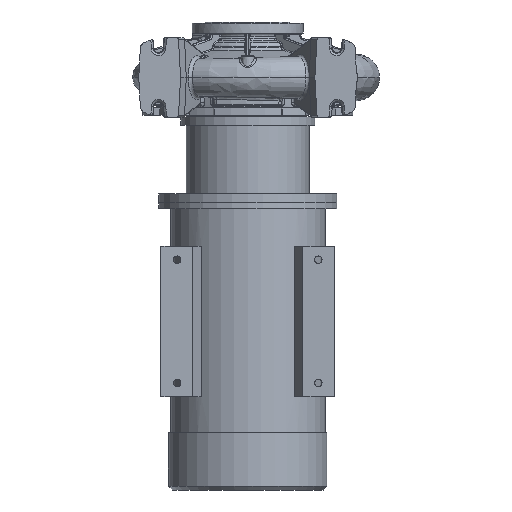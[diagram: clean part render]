
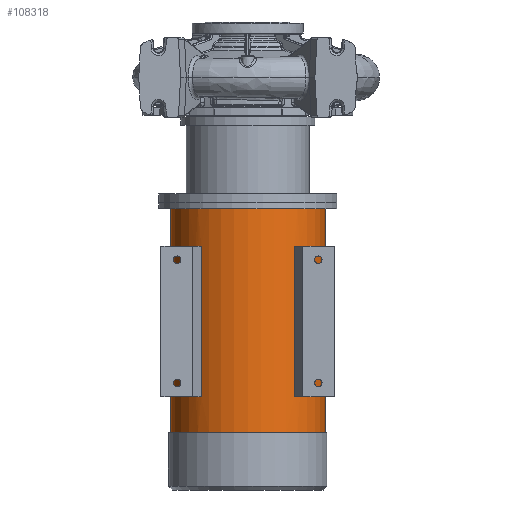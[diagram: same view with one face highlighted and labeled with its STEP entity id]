
A CAD part, front view. The second image highlights one B-rep face of the part: STEP entity #108318.
In plain terms, the highlighted cylindrical face has radius 195 mm (diameter 390 mm), a partial arc.
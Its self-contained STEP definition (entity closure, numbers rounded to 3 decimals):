
#553 = CARTESIAN_POINT ( 'NONE',  ( 117.445, -155.665, -1040.8 ) ) ;
#2296 = EDGE_LOOP ( 'NONE', ( #104818, #56268, #51051, #9727 ) ) ;
#3020 = VECTOR ( 'NONE', #108798, 1000. ) ;
#4124 = CARTESIAN_POINT ( 'NONE',  ( 131.492, -143.996, -805.3 ) ) ;
#4322 = EDGE_LOOP ( 'NONE', ( #91780, #60033, #30339, #5461 ) ) ;
#5461 = ORIENTED_EDGE ( 'NONE', *, *, #22422, .F. ) ;
#5805 = AXIS2_PLACEMENT_3D ( 'NONE', #11121, #29700, #93659 ) ;
#5840 = VERTEX_POINT ( 'NONE', #43347 ) ;
#5873 = EDGE_CURVE ( 'NONE', #62763, #36496, #75799, .T. ) ;
#8458 = FACE_OUTER_BOUND ( 'NONE', #4322, .T. ) ;
#9170 = VECTOR ( 'NONE', #65760, 1000. ) ;
#9727 = ORIENTED_EDGE ( 'NONE', *, *, #28275, .F. ) ;
#10656 = LINE ( 'NONE', #47320, #50094 ) ;
#11121 = CARTESIAN_POINT ( 'NONE',  ( 0., 0., -1040.8 ) ) ;
#11265 = VERTEX_POINT ( 'NONE', #36207 ) ;
#13224 = ORIENTED_EDGE ( 'NONE', *, *, #68380, .T. ) ;
#15901 = DIRECTION ( 'NONE',  ( -1., 0., 0. ) ) ;
#16651 = EDGE_CURVE ( 'NONE', #108466, #55109, #20455, .T. ) ;
#17890 = EDGE_CURVE ( 'NONE', #25414, #11265, #76831, .T. ) ;
#18172 = LINE ( 'NONE', #46804, #28057 ) ;
#19170 = CARTESIAN_POINT ( 'NONE',  ( -195., 0., -1040.8 ) ) ;
#20455 = LINE ( 'NONE', #112738, #65676 ) ;
#20478 = CARTESIAN_POINT ( 'NONE',  ( 117.445, -155.665, -805.3 ) ) ;
#20594 = VERTEX_POINT ( 'NONE', #21587 ) ;
#21587 = CARTESIAN_POINT ( 'NONE',  ( -131.492, -143.996, -805.3 ) ) ;
#22422 = EDGE_CURVE ( 'NONE', #39382, #5840, #71618, .T. ) ;
#24631 = DIRECTION ( 'NONE',  ( 0., 0., -1. ) ) ;
#25414 = VERTEX_POINT ( 'NONE', #82440 ) ;
#25963 = CARTESIAN_POINT ( 'NONE',  ( 0., 0., -896.8 ) ) ;
#28057 = VECTOR ( 'NONE', #65763, 1000. ) ;
#28275 = EDGE_CURVE ( 'NONE', #55109, #103536, #99624, .T. ) ;
#28577 = LINE ( 'NONE', #553, #3020 ) ;
#29700 = DIRECTION ( 'NONE',  ( 0., 0., -1. ) ) ;
#30339 = ORIENTED_EDGE ( 'NONE', *, *, #87183, .T. ) ;
#31584 = EDGE_CURVE ( 'NONE', #56092, #36496, #64042, .T. ) ;
#33366 = CARTESIAN_POINT ( 'NONE',  ( 0., 0., -425.3 ) ) ;
#35618 = CARTESIAN_POINT ( 'NONE',  ( -117.445, -155.665, -425.3 ) ) ;
#36089 = LINE ( 'NONE', #19170, #9170 ) ;
#36207 = CARTESIAN_POINT ( 'NONE',  ( -195., 0., -330.8 ) ) ;
#36435 = EDGE_CURVE ( 'NONE', #108466, #20594, #55801, .T. ) ;
#36496 = VERTEX_POINT ( 'NONE', #4124 ) ;
#39382 = VERTEX_POINT ( 'NONE', #77443 ) ;
#40719 = AXIS2_PLACEMENT_3D ( 'NONE', #33366, #42417, #59458 ) ;
#42417 = DIRECTION ( 'NONE',  ( 0., 0., -1. ) ) ;
#43347 = CARTESIAN_POINT ( 'NONE',  ( -195., 0., -896.8 ) ) ;
#43626 = ORIENTED_EDGE ( 'NONE', *, *, #31584, .T. ) ;
#44042 = CARTESIAN_POINT ( 'NONE',  ( 131.492, -143.996, -425.3 ) ) ;
#44509 = EDGE_CURVE ( 'NONE', #102853, #56092, #63631, .T. ) ;
#45102 = CARTESIAN_POINT ( 'NONE',  ( -131.492, -143.996, -425.3 ) ) ;
#46804 = CARTESIAN_POINT ( 'NONE',  ( -131.492, -143.996, -1040.8 ) ) ;
#47320 = CARTESIAN_POINT ( 'NONE',  ( 195., 0., -1040.8 ) ) ;
#50094 = VECTOR ( 'NONE', #101848, 1000. ) ;
#50328 = EDGE_LOOP ( 'NONE', ( #89362, #13224, #101267, #43626 ) ) ;
#51051 = ORIENTED_EDGE ( 'NONE', *, *, #71238, .F. ) ;
#51659 = DIRECTION ( 'NONE',  ( 0., 0., -1. ) ) ;
#52055 = DIRECTION ( 'NONE',  ( -1., 0., 0. ) ) ;
#55109 = VERTEX_POINT ( 'NONE', #35618 ) ;
#55583 = EDGE_CURVE ( 'NONE', #25414, #39382, #10656, .T. ) ;
#55801 = CIRCLE ( 'NONE', #98627, 195. ) ;
#56092 = VERTEX_POINT ( 'NONE', #44042 ) ;
#56268 = ORIENTED_EDGE ( 'NONE', *, *, #36435, .T. ) ;
#57731 = AXIS2_PLACEMENT_3D ( 'NONE', #80835, #89931, #52055 ) ;
#58035 = DIRECTION ( 'NONE',  ( 0., 0., -1. ) ) ;
#58105 = CYLINDRICAL_SURFACE ( 'NONE', #5805, 195. ) ;
#59458 = DIRECTION ( 'NONE',  ( 1., 0., 0. ) ) ;
#60033 = ORIENTED_EDGE ( 'NONE', *, *, #17890, .T. ) ;
#60353 = DIRECTION ( 'NONE',  ( -1., 0., 0. ) ) ;
#60553 = CARTESIAN_POINT ( 'NONE',  ( 0., 0., -330.8 ) ) ;
#62763 = VERTEX_POINT ( 'NONE', #20478 ) ;
#63631 = CIRCLE ( 'NONE', #104405, 195. ) ;
#64042 = LINE ( 'NONE', #66700, #85213 ) ;
#65676 = VECTOR ( 'NONE', #103688, 1000. ) ;
#65760 = DIRECTION ( 'NONE',  ( 0., 0., -1. ) ) ;
#65763 = DIRECTION ( 'NONE',  ( 0., 0., -1. ) ) ;
#65811 = CARTESIAN_POINT ( 'NONE',  ( 0., 0., -805.3 ) ) ;
#66700 = CARTESIAN_POINT ( 'NONE',  ( 131.492, -143.996, -1040.8 ) ) ;
#68380 = EDGE_CURVE ( 'NONE', #62763, #102853, #28577, .T. ) ;
#71238 = EDGE_CURVE ( 'NONE', #103536, #20594, #18172, .T. ) ;
#71618 = CIRCLE ( 'NONE', #78027, 195. ) ;
#73525 = DIRECTION ( 'NONE',  ( -1., 0., 0. ) ) ;
#74072 = AXIS2_PLACEMENT_3D ( 'NONE', #60553, #24631, #15901 ) ;
#75799 = CIRCLE ( 'NONE', #57731, 195. ) ;
#76831 = CIRCLE ( 'NONE', #74072, 195. ) ;
#77443 = CARTESIAN_POINT ( 'NONE',  ( 195., 0., -896.8 ) ) ;
#78027 = AXIS2_PLACEMENT_3D ( 'NONE', #25963, #51659, #60353 ) ;
#80835 = CARTESIAN_POINT ( 'NONE',  ( 0., 0., -805.3 ) ) ;
#81957 = CARTESIAN_POINT ( 'NONE',  ( 117.445, -155.665, -425.3 ) ) ;
#82440 = CARTESIAN_POINT ( 'NONE',  ( 195., 0., -330.8 ) ) ;
#85213 = VECTOR ( 'NONE', #58035, 1000. ) ;
#87183 = EDGE_CURVE ( 'NONE', #11265, #5840, #36089, .T. ) ;
#89362 = ORIENTED_EDGE ( 'NONE', *, *, #5873, .F. ) ;
#89931 = DIRECTION ( 'NONE',  ( 0., 0., 1. ) ) ;
#91780 = ORIENTED_EDGE ( 'NONE', *, *, #55583, .F. ) ;
#92106 = DIRECTION ( 'NONE',  ( 0., 0., 1. ) ) ;
#92656 = DIRECTION ( 'NONE',  ( 0., 0., -1. ) ) ;
#93659 = DIRECTION ( 'NONE',  ( -1., 0., 0. ) ) ;
#98469 = CARTESIAN_POINT ( 'NONE',  ( 0., 0., -425.3 ) ) ;
#98627 = AXIS2_PLACEMENT_3D ( 'NONE', #65811, #92656, #110862 ) ;
#99624 = CIRCLE ( 'NONE', #40719, 195. ) ;
#101267 = ORIENTED_EDGE ( 'NONE', *, *, #44509, .T. ) ;
#101832 = FACE_BOUND ( 'NONE', #50328, .T. ) ;
#101848 = DIRECTION ( 'NONE',  ( 0., 0., -1. ) ) ;
#102853 = VERTEX_POINT ( 'NONE', #81957 ) ;
#103536 = VERTEX_POINT ( 'NONE', #45102 ) ;
#103688 = DIRECTION ( 'NONE',  ( 0., 0., 1. ) ) ;
#104405 = AXIS2_PLACEMENT_3D ( 'NONE', #98469, #92106, #73525 ) ;
#104818 = ORIENTED_EDGE ( 'NONE', *, *, #16651, .F. ) ;
#108318 = ADVANCED_FACE ( 'NONE', ( #8458, #101832, #115956 ), #58105, .T. ) ;
#108466 = VERTEX_POINT ( 'NONE', #112243 ) ;
#108798 = DIRECTION ( 'NONE',  ( 0., 0., 1. ) ) ;
#110862 = DIRECTION ( 'NONE',  ( 1., 0., 0. ) ) ;
#112243 = CARTESIAN_POINT ( 'NONE',  ( -117.445, -155.665, -805.3 ) ) ;
#112738 = CARTESIAN_POINT ( 'NONE',  ( -117.445, -155.665, -1040.8 ) ) ;
#115956 = FACE_BOUND ( 'NONE', #2296, .T. ) ;
